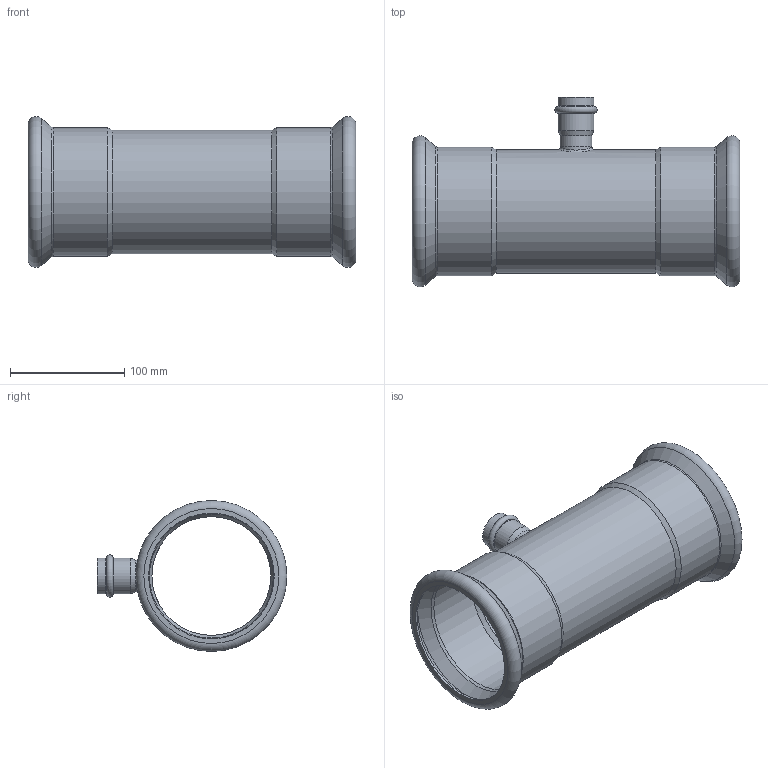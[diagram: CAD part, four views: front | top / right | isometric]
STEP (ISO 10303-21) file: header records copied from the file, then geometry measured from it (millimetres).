
FILE_DESCRIPTION((''),'2;1');
FILE_NAME('G:\Nirosan-Schmiedefeld\Technics\CAD\Bauteile VA\108\6913010828108(1).stp','2009-05-08T09:41:52',('herberg'),(''),'Autodesk Inventor 2009','Autodesk Inventor 2009','');
FILE_SCHEMA(('AUTOMOTIVE_DESIGN { 1 0 10303 214 1 1 1 1 }'));
Length unit declared in the file: millimetre
Products named in the file (3): 6913010828108(1); LM_6913010828108(0); 6924328HM(1)
Assembly tree (2 placements, depth 2):
  6913010828108(1)
    LM_6913010828108(0)
    6924328HM(1)
Bounding box: 287 x 166.1 x 132.2 mm (x, y, z)
Volume: 220125.8 mm3; surface area: 224062.9 mm2
Topology: 2 solids, 2 shells, 51 faces, 103 edges, 58 vertices
Faces by surface type: cylinder 16, cone 12, bspline 9, plane 7, torus 7
Full cylindrical faces by diameter (mm): 24 x1, 25 x1, 28 x2, 28.2 x2, 31.2 x2, 104 x1, 108 x1, 108.7 x2, 110 x2, 112.7 x2
Entity records: 3020 total; most frequent: CARTESIAN_POINT 2084, DIRECTION 192, ORIENTED_EDGE 108, EDGE_LOOP 102, AXIS2_PLACEMENT_3D 96, EDGE_CURVE 54, VERTEX_POINT 52, FACE_OUTER_BOUND 51
